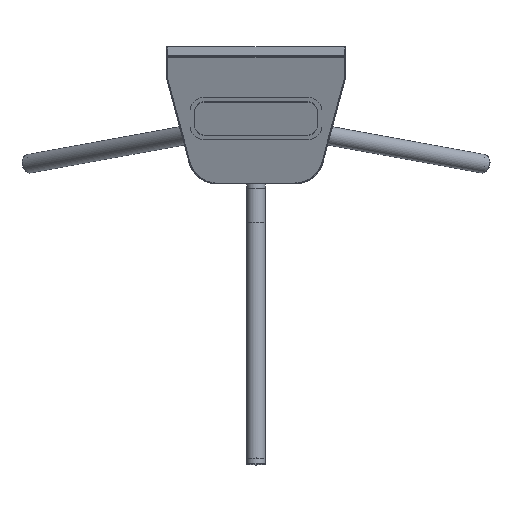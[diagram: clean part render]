
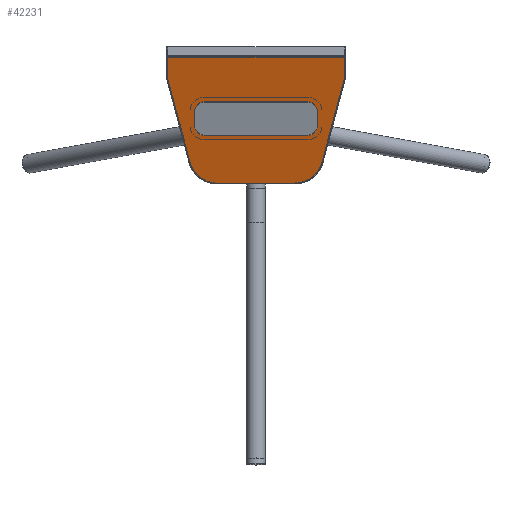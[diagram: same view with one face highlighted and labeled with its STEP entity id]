
A CAD part, top view. The second image highlights one B-rep face of the part: STEP entity #42231.
In plain terms, the highlighted planar face has unit normal (0, -0.309, 0.951).
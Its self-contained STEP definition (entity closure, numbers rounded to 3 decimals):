
#479=ELLIPSE('',#45241,50.481,48.01);
#480=ELLIPSE('',#45242,50.481,48.01);
#3035=CIRCLE('',#45243,3.15);
#3036=CIRCLE('',#45244,3.15);
#3037=CIRCLE('',#45245,16.5);
#3038=CIRCLE('',#45246,16.5);
#3039=CIRCLE('',#45247,16.5);
#3040=CIRCLE('',#45248,16.5);
#12982=ORIENTED_EDGE('',*,*,#17901,.T.);
#12983=ORIENTED_EDGE('',*,*,#17902,.T.);
#12984=ORIENTED_EDGE('',*,*,#17903,.T.);
#12985=ORIENTED_EDGE('',*,*,#17904,.T.);
#12986=ORIENTED_EDGE('',*,*,#17905,.T.);
#12987=ORIENTED_EDGE('',*,*,#17906,.T.);
#12988=ORIENTED_EDGE('',*,*,#17907,.T.);
#12989=ORIENTED_EDGE('',*,*,#17899,.T.);
#12990=ORIENTED_EDGE('',*,*,#17908,.T.);
#12991=ORIENTED_EDGE('',*,*,#17909,.T.);
#12992=ORIENTED_EDGE('',*,*,#17910,.F.);
#12993=ORIENTED_EDGE('',*,*,#17911,.F.);
#12994=ORIENTED_EDGE('',*,*,#17912,.F.);
#12995=ORIENTED_EDGE('',*,*,#17913,.F.);
#12996=ORIENTED_EDGE('',*,*,#17914,.F.);
#12997=ORIENTED_EDGE('',*,*,#17915,.F.);
#12998=ORIENTED_EDGE('',*,*,#17916,.F.);
#12999=ORIENTED_EDGE('',*,*,#17917,.F.);
#17899=EDGE_CURVE('',#21065,#21064,#22698,.T.);
#17901=EDGE_CURVE('',#21066,#21067,#22700,.F.);
#17902=EDGE_CURVE('',#21067,#21068,#479,.T.);
#17903=EDGE_CURVE('',#21068,#21069,#22701,.F.);
#17904=EDGE_CURVE('',#21069,#21070,#480,.T.);
#17905=EDGE_CURVE('',#21070,#21071,#22702,.F.);
#17906=EDGE_CURVE('',#21071,#21072,#22703,.F.);
#17907=EDGE_CURVE('',#21072,#21065,#3035,.T.);
#17908=EDGE_CURVE('',#21064,#21073,#3036,.T.);
#17909=EDGE_CURVE('',#21073,#21066,#22704,.T.);
#17910=EDGE_CURVE('',#21074,#21075,#3037,.T.);
#17911=EDGE_CURVE('',#21076,#21074,#22705,.T.);
#17912=EDGE_CURVE('',#21077,#21076,#3038,.T.);
#17913=EDGE_CURVE('',#21078,#21077,#22706,.T.);
#17914=EDGE_CURVE('',#21079,#21078,#3039,.T.);
#17915=EDGE_CURVE('',#21080,#21079,#22707,.T.);
#17916=EDGE_CURVE('',#21081,#21080,#3040,.T.);
#17917=EDGE_CURVE('',#21075,#21081,#22708,.T.);
#21064=VERTEX_POINT('',#100296);
#21065=VERTEX_POINT('',#100298);
#21066=VERTEX_POINT('',#100302);
#21067=VERTEX_POINT('',#100303);
#21068=VERTEX_POINT('',#100305);
#21069=VERTEX_POINT('',#100307);
#21070=VERTEX_POINT('',#100309);
#21071=VERTEX_POINT('',#100311);
#21072=VERTEX_POINT('',#100313);
#21073=VERTEX_POINT('',#100316);
#21074=VERTEX_POINT('',#100319);
#21075=VERTEX_POINT('',#100320);
#21076=VERTEX_POINT('',#100322);
#21077=VERTEX_POINT('',#100324);
#21078=VERTEX_POINT('',#100326);
#21079=VERTEX_POINT('',#100328);
#21080=VERTEX_POINT('',#100330);
#21081=VERTEX_POINT('',#100332);
#22698=LINE('',#100297,#24259);
#22700=LINE('',#100301,#24261);
#22701=LINE('',#100306,#24262);
#22702=LINE('',#100310,#24263);
#22703=LINE('',#100312,#24264);
#22704=LINE('',#100317,#24265);
#22705=LINE('',#100321,#24266);
#22706=LINE('',#100325,#24267);
#22707=LINE('',#100329,#24268);
#22708=LINE('',#100333,#24269);
#24259=VECTOR('',#52516,1000.);
#24261=VECTOR('',#52520,1000.);
#24262=VECTOR('',#52523,1000.);
#24263=VECTOR('',#52526,1000.);
#24264=VECTOR('',#52527,1000.);
#24265=VECTOR('',#52532,1000.);
#24266=VECTOR('',#52535,1000.);
#24267=VECTOR('',#52538,1000.);
#24268=VECTOR('',#52541,1000.);
#24269=VECTOR('',#52544,1000.);
#26844=EDGE_LOOP('',(#12982,#12983,#12984,#12985,#12986,#12987,#12988,#12989,
#12990,#12991));
#26845=EDGE_LOOP('',(#12992,#12993,#12994,#12995,#12996,#12997,#12998,#12999));
#29434=FACE_BOUND('',#26844,.T.);
#29435=FACE_BOUND('',#26845,.T.);
#30109=PLANE('',#45240);
#42231=ADVANCED_FACE('',(#29434,#29435),#30109,.T.);
#45240=AXIS2_PLACEMENT_3D('',#100300,#52518,#52519);
#45241=AXIS2_PLACEMENT_3D('',#100304,#52521,#52522);
#45242=AXIS2_PLACEMENT_3D('',#100308,#52524,#52525);
#45243=AXIS2_PLACEMENT_3D('',#100314,#52528,#52529);
#45244=AXIS2_PLACEMENT_3D('',#100315,#52530,#52531);
#45245=AXIS2_PLACEMENT_3D('',#100318,#52533,#52534);
#45246=AXIS2_PLACEMENT_3D('',#100323,#52536,#52537);
#45247=AXIS2_PLACEMENT_3D('',#100327,#52539,#52540);
#45248=AXIS2_PLACEMENT_3D('',#100331,#52542,#52543);
#52516=DIRECTION('',(-1.,0.,0.));
#52518=DIRECTION('',(0.,-0.309,0.951));
#52519=DIRECTION('',(0.,-0.951,-0.309));
#52520=DIRECTION('',(-0.247,0.922,0.299));
#52521=DIRECTION('',(0.,-0.309,0.951));
#52522=DIRECTION('',(0.,-0.951,-0.309));
#52523=DIRECTION('',(-1.,0.,0.));
#52524=DIRECTION('',(0.,-0.309,0.951));
#52525=DIRECTION('',(0.,-0.951,-0.309));
#52526=DIRECTION('',(-0.247,-0.922,-0.299));
#52527=DIRECTION('',(0.,-0.951,-0.309));
#52528=DIRECTION('',(0.,-0.309,0.951));
#52529=DIRECTION('',(0.,-0.951,-0.309));
#52530=DIRECTION('',(0.,-0.309,0.951));
#52531=DIRECTION('',(0.,-0.951,-0.309));
#52532=DIRECTION('',(0.,-0.951,-0.309));
#52533=DIRECTION('',(0.,-0.309,0.951));
#52534=DIRECTION('',(0.,-0.951,-0.309));
#52535=DIRECTION('',(-1.,0.,0.));
#52536=DIRECTION('',(0.,-0.309,0.951));
#52537=DIRECTION('',(0.,-0.951,-0.309));
#52538=DIRECTION('',(0.,0.951,0.309));
#52539=DIRECTION('',(0.,-0.309,0.951));
#52540=DIRECTION('',(0.,-0.951,-0.309));
#52541=DIRECTION('',(1.,0.,0.));
#52542=DIRECTION('',(0.,-0.309,0.951));
#52543=DIRECTION('',(0.,-0.951,-0.309));
#52544=DIRECTION('',(0.,-0.951,-0.309));
#100296=CARTESIAN_POINT('',(-149.099,-0.618,154.718));
#100297=CARTESIAN_POINT('',(-158.694,-0.618,154.718));
#100298=CARTESIAN_POINT('',(149.099,-0.618,154.718));
#100300=CARTESIAN_POINT('',(158.694,-3.332,153.836));
#100301=CARTESIAN_POINT('',(-112.635,-179.227,96.684));
#100302=CARTESIAN_POINT('',(-150.349,-38.475,142.417));
#100303=CARTESIAN_POINT('',(-112.467,-179.853,96.481));
#100304=CARTESIAN_POINT('',(-66.093,-167.427,100.518));
#100305=CARTESIAN_POINT('',(-66.093,-215.437,84.919));
#100306=CARTESIAN_POINT('',(65.719,-215.437,84.919));
#100307=CARTESIAN_POINT('',(66.093,-215.437,84.919));
#100308=CARTESIAN_POINT('',(66.093,-167.427,100.518));
#100309=CARTESIAN_POINT('',(112.467,-179.853,96.481));
#100310=CARTESIAN_POINT('',(148.57,-45.117,140.259));
#100311=CARTESIAN_POINT('',(150.349,-38.475,142.417));
#100312=CARTESIAN_POINT('',(150.349,-3.614,153.744));
#100313=CARTESIAN_POINT('',(150.349,-0.864,154.638));
#100314=CARTESIAN_POINT('',(149.099,-3.614,153.744));
#100315=CARTESIAN_POINT('',(-149.099,-3.614,153.744));
#100316=CARTESIAN_POINT('',(-150.349,-0.864,154.638));
#100317=CARTESIAN_POINT('',(-150.349,-3.332,153.836));
#100318=CARTESIAN_POINT('',(-88.,-92.93,124.724));
#100319=CARTESIAN_POINT('',(-88.,-77.238,129.823));
#100320=CARTESIAN_POINT('',(-104.5,-92.93,124.724));
#100321=CARTESIAN_POINT('',(158.694,-77.238,129.823));
#100322=CARTESIAN_POINT('',(88.,-77.238,129.823));
#100323=CARTESIAN_POINT('',(88.,-92.93,124.724));
#100324=CARTESIAN_POINT('',(104.5,-92.93,124.724));
#100325=CARTESIAN_POINT('',(104.5,-3.332,153.836));
#100326=CARTESIAN_POINT('',(104.5,-118.608,116.38));
#100327=CARTESIAN_POINT('',(88.,-118.608,116.38));
#100328=CARTESIAN_POINT('',(88.,-134.301,111.282));
#100329=CARTESIAN_POINT('',(158.694,-134.301,111.282));
#100330=CARTESIAN_POINT('',(-88.,-134.301,111.282));
#100331=CARTESIAN_POINT('',(-88.,-118.608,116.38));
#100332=CARTESIAN_POINT('',(-104.5,-118.608,116.38));
#100333=CARTESIAN_POINT('',(-104.5,-3.332,153.836));
